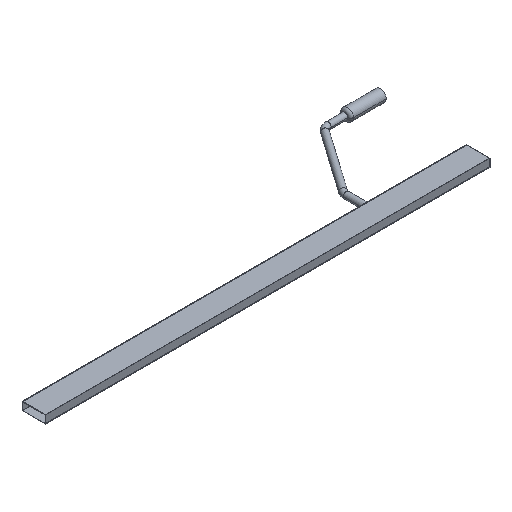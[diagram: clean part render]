
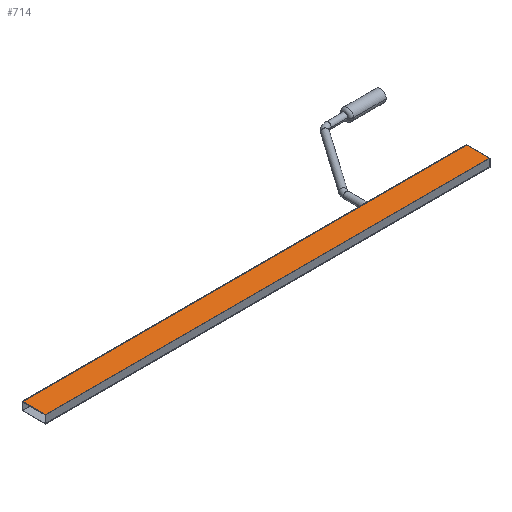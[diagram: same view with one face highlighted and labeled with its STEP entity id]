
A CAD part, isometric view. The second image highlights one B-rep face of the part: STEP entity #714.
In plain terms, the highlighted planar face has unit normal (0, 0, 1).
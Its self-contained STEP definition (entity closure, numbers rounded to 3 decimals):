
#8 = ORIENTED_EDGE ( 'NONE', *, *, #673, .T. ) ;
#10 = ORIENTED_EDGE ( 'NONE', *, *, #668, .T. ) ;
#11 = ORIENTED_EDGE ( 'NONE', *, *, #623, .F. ) ;
#12 = ORIENTED_EDGE ( 'NONE', *, *, #654, .F. ) ;
#23 = EDGE_LOOP ( 'NONE', ( #12, #11, #10, #8 ) ) ;
#167 = LINE ( 'NONE', #388, #168 ) ;
#168 = VECTOR ( 'NONE', #389, 1000. ) ;
#205 = LINE ( 'NONE', #432, #207 ) ;
#207 = VECTOR ( 'NONE', #443, 1000. ) ;
#208 = LINE ( 'NONE', #459, #216 ) ;
#215 = LINE ( 'NONE', #461, #225 ) ;
#216 = VECTOR ( 'NONE', #460, 1000. ) ;
#225 = VECTOR ( 'NONE', #465, 1000. ) ;
#264 = FACE_OUTER_BOUND ( 'NONE', #23, .T. ) ;
#297 = VERTEX_POINT ( 'NONE', #332 ) ;
#298 = VERTEX_POINT ( 'NONE', #333 ) ;
#299 = VERTEX_POINT ( 'NONE', #334 ) ;
#301 = VERTEX_POINT ( 'NONE', #336 ) ;
#332 = CARTESIAN_POINT ( 'NONE',  ( 127.247, -30., 5.25 ) ) ;
#333 = CARTESIAN_POINT ( 'NONE',  ( -439.853, 0., 5.25 ) ) ;
#334 = CARTESIAN_POINT ( 'NONE',  ( 127.247, 0., 5.25 ) ) ;
#336 = CARTESIAN_POINT ( 'NONE',  ( -439.853, -30., 5.25 ) ) ;
#388 = CARTESIAN_POINT ( 'NONE',  ( -439.853, 0., 5.25 ) ) ;
#389 = DIRECTION ( 'NONE',  ( 1., 0., 0. ) ) ;
#432 = CARTESIAN_POINT ( 'NONE',  ( 127.247, -30., 5.25 ) ) ;
#443 = DIRECTION ( 'NONE',  ( 0., -1., 0. ) ) ;
#459 = CARTESIAN_POINT ( 'NONE',  ( -439.853, -30., 5.25 ) ) ;
#460 = DIRECTION ( 'NONE',  ( 0., -1., 0. ) ) ;
#461 = CARTESIAN_POINT ( 'NONE',  ( -439.853, -30., 5.25 ) ) ;
#465 = DIRECTION ( 'NONE',  ( 1., 0., 0. ) ) ;
#531 = PLANE ( 'NONE',  #598 ) ;
#537 = CARTESIAN_POINT ( 'NONE',  ( -439.853, -30., 5.25 ) ) ;
#543 = DIRECTION ( 'NONE',  ( 0., 0., 1. ) ) ;
#544 = DIRECTION ( 'NONE',  ( 0., -1., 0. ) ) ;
#598 = AXIS2_PLACEMENT_3D ( 'NONE', #537, #543, #544 ) ;
#623 = EDGE_CURVE ( 'NONE', #298, #299, #167, .T. ) ;
#654 = EDGE_CURVE ( 'NONE', #299, #297, #205, .T. ) ;
#668 = EDGE_CURVE ( 'NONE', #298, #301, #208, .T. ) ;
#673 = EDGE_CURVE ( 'NONE', #301, #297, #215, .T. ) ;
#714 = ADVANCED_FACE ( 'NONE', ( #264 ), #531, .T. ) ;
